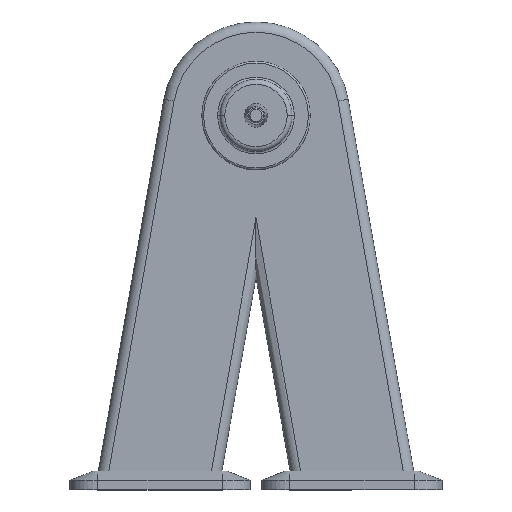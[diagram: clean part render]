
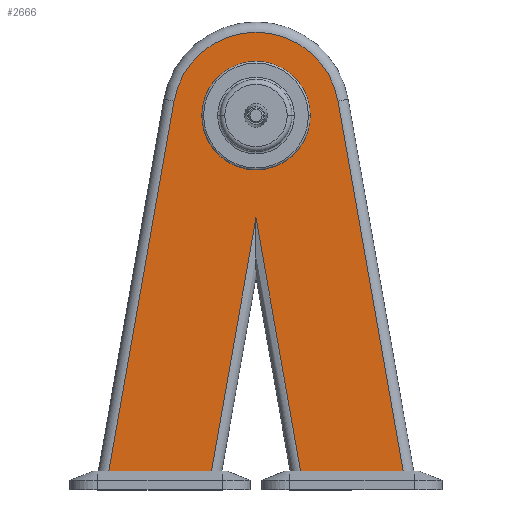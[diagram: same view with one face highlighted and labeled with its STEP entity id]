
A CAD part, top view. The second image highlights one B-rep face of the part: STEP entity #2666.
In plain terms, the highlighted planar face has unit normal (0, 0, 1).
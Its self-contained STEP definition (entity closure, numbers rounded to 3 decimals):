
#18 = CARTESIAN_POINT ( 'NONE',  ( 0., 400., 63. ) ) ;
#89 = VERTEX_POINT ( 'NONE', #2827 ) ;
#249 = CARTESIAN_POINT ( 'NONE',  ( 58., 400., 63. ) ) ;
#310 = ORIENTED_EDGE ( 'NONE', *, *, #3031, .T. ) ;
#311 = FACE_BOUND ( 'NONE', #2417, .T. ) ;
#375 = DIRECTION ( 'NONE',  ( 1., 0., 0. ) ) ;
#460 = VECTOR ( 'NONE', #2315, 1000. ) ;
#486 = CARTESIAN_POINT ( 'NONE',  ( 0., 20., 63. ) ) ;
#499 = AXIS2_PLACEMENT_3D ( 'NONE', #18, #2450, #375 ) ;
#556 = DIRECTION ( 'NONE',  ( 1., 0., 0. ) ) ;
#557 = DIRECTION ( 'NONE',  ( -0.174, -0.985, 0. ) ) ;
#558 = CARTESIAN_POINT ( 'NONE',  ( -162.299, -7.91, 63. ) ) ;
#622 = LINE ( 'NONE', #486, #3346 ) ;
#675 = LINE ( 'NONE', #1655, #3297 ) ;
#679 = VECTOR ( 'NONE', #1054, 1000. ) ;
#718 = ORIENTED_EDGE ( 'NONE', *, *, #4020, .F. ) ;
#812 = CARTESIAN_POINT ( 'NONE',  ( -10.833, 229.147, 63. ) ) ;
#896 = DIRECTION ( 'NONE',  ( 0., 0., 1. ) ) ;
#915 = VERTEX_POINT ( 'NONE', #3420 ) ;
#1054 = DIRECTION ( 'NONE',  ( -0.174, 0.985, 0. ) ) ;
#1109 = CARTESIAN_POINT ( 'NONE',  ( 0., 400., 63. ) ) ;
#1173 = CIRCLE ( 'NONE', #1403, 58. ) ;
#1176 = AXIS2_PLACEMENT_3D ( 'NONE', #2964, #896, #3287 ) ;
#1177 = LINE ( 'NONE', #558, #1987 ) ;
#1182 = VERTEX_POINT ( 'NONE', #2662 ) ;
#1242 = ORIENTED_EDGE ( 'NONE', *, *, #2567, .F. ) ;
#1323 = DIRECTION ( 'NONE',  ( 0.174, -0.985, 0. ) ) ;
#1403 = AXIS2_PLACEMENT_3D ( 'NONE', #1109, #3472, #1460 ) ;
#1435 = CIRCLE ( 'NONE', #499, 58. ) ;
#1449 = AXIS2_PLACEMENT_3D ( 'NONE', #1923, #2626, #556 ) ;
#1460 = DIRECTION ( 'NONE',  ( 1., 0., 0. ) ) ;
#1542 = VECTOR ( 'NONE', #2879, 1000. ) ;
#1552 = CARTESIAN_POINT ( 'NONE',  ( 47.711, 20., 63. ) ) ;
#1558 = VERTEX_POINT ( 'NONE', #1552 ) ;
#1626 = CARTESIAN_POINT ( 'NONE',  ( 0., 20., 63. ) ) ;
#1655 = CARTESIAN_POINT ( 'NONE',  ( 53.823, -14.664, 63. ) ) ;
#1742 = CARTESIAN_POINT ( 'NONE',  ( 87.648, 415.455, 63. ) ) ;
#1869 = EDGE_CURVE ( 'NONE', #3017, #89, #1177, .T. ) ;
#1923 = CARTESIAN_POINT ( 'NONE',  ( 0., 400., 63. ) ) ;
#1987 = VECTOR ( 'NONE', #557, 1000. ) ;
#2110 = EDGE_CURVE ( 'NONE', #1182, #3017, #3350, .T. ) ;
#2246 = LINE ( 'NONE', #812, #1542 ) ;
#2266 = CARTESIAN_POINT ( 'NONE',  ( 0., 290.583, 63. ) ) ;
#2299 = LINE ( 'NONE', #1626, #460 ) ;
#2315 = DIRECTION ( 'NONE',  ( -1., 0., 0. ) ) ;
#2345 = EDGE_CURVE ( 'NONE', #3370, #1182, #4140, .T. ) ;
#2417 = EDGE_LOOP ( 'NONE', ( #3483, #718 ) ) ;
#2450 = DIRECTION ( 'NONE',  ( 0., 0., 1. ) ) ;
#2481 = ORIENTED_EDGE ( 'NONE', *, *, #3239, .F. ) ;
#2530 = ORIENTED_EDGE ( 'NONE', *, *, #2345, .T. ) ;
#2567 = EDGE_CURVE ( 'NONE', #3370, #1558, #622, .T. ) ;
#2609 = ORIENTED_EDGE ( 'NONE', *, *, #2803, .T. ) ;
#2626 = DIRECTION ( 'NONE',  ( 0., 0., 1. ) ) ;
#2662 = CARTESIAN_POINT ( 'NONE',  ( 87.648, 415.455, 63. ) ) ;
#2666 = ADVANCED_FACE ( 'NONE', ( #311, #3694 ), #2958, .T. ) ;
#2803 = EDGE_CURVE ( 'NONE', #3164, #1558, #675, .T. ) ;
#2827 = CARTESIAN_POINT ( 'NONE',  ( -157.377, 20., 63. ) ) ;
#2845 = EDGE_LOOP ( 'NONE', ( #2481, #310, #2609, #1242, #2530, #3182, #2864 ) ) ;
#2864 = ORIENTED_EDGE ( 'NONE', *, *, #1869, .T. ) ;
#2879 = DIRECTION ( 'NONE',  ( 0.174, 0.985, 0. ) ) ;
#2958 = PLANE ( 'NONE',  #1449 ) ;
#2964 = CARTESIAN_POINT ( 'NONE',  ( 0., 400., 63. ) ) ;
#3017 = VERTEX_POINT ( 'NONE', #3508 ) ;
#3031 = EDGE_CURVE ( 'NONE', #915, #3164, #2246, .T. ) ;
#3128 = CARTESIAN_POINT ( 'NONE',  ( -58., 400., 63. ) ) ;
#3164 = VERTEX_POINT ( 'NONE', #2266 ) ;
#3182 = ORIENTED_EDGE ( 'NONE', *, *, #2110, .T. ) ;
#3239 = EDGE_CURVE ( 'NONE', #915, #89, #2299, .T. ) ;
#3287 = DIRECTION ( 'NONE',  ( 1., 0., 0. ) ) ;
#3297 = VECTOR ( 'NONE', #1323, 1000. ) ;
#3346 = VECTOR ( 'NONE', #4167, 1000. ) ;
#3350 = CIRCLE ( 'NONE', #1176, 89. ) ;
#3370 = VERTEX_POINT ( 'NONE', #4362 ) ;
#3420 = CARTESIAN_POINT ( 'NONE',  ( -47.711, 20., 63. ) ) ;
#3445 = EDGE_CURVE ( 'NONE', #3455, #4262, #1435, .T. ) ;
#3455 = VERTEX_POINT ( 'NONE', #3128 ) ;
#3472 = DIRECTION ( 'NONE',  ( 0., 0., 1. ) ) ;
#3483 = ORIENTED_EDGE ( 'NONE', *, *, #3445, .F. ) ;
#3508 = CARTESIAN_POINT ( 'NONE',  ( -87.648, 415.455, 63. ) ) ;
#3694 = FACE_OUTER_BOUND ( 'NONE', #2845, .T. ) ;
#4020 = EDGE_CURVE ( 'NONE', #4262, #3455, #1173, .T. ) ;
#4140 = LINE ( 'NONE', #1742, #679 ) ;
#4167 = DIRECTION ( 'NONE',  ( -1., 0., 0. ) ) ;
#4262 = VERTEX_POINT ( 'NONE', #249 ) ;
#4362 = CARTESIAN_POINT ( 'NONE',  ( 157.377, 20., 63. ) ) ;
